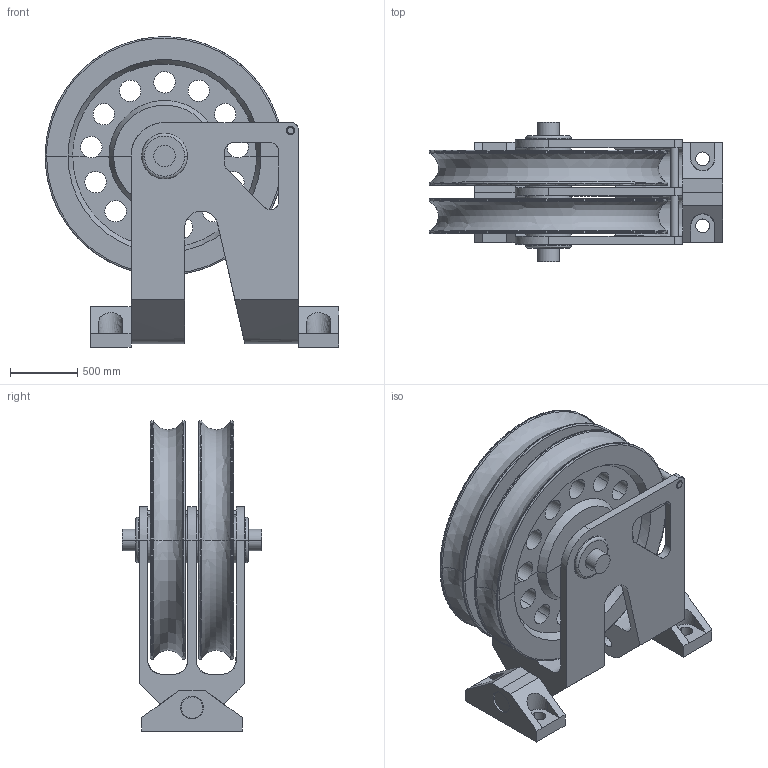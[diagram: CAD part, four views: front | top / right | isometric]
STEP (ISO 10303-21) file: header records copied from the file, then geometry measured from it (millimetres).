
FILE_DESCRIPTION(/* description */ (''),/* implementation_level */ '2;1');
FILE_NAME(/* name */ 'POULIE DOUBLE ARTICULEE D 180',/* time_stamp */ '2005-05-31T08:52:19+02:00',/* author */ (''),/* organization */ (''),/* preprocessor_version */ 'ST-DEVELOPER v8',/* originating_system */ '',/* authorisation */ '');
FILE_SCHEMA (('CONFIG_CONTROL_DESIGN'));
Length unit declared in the file: centimetre
Products named in the file (1): 1
Bounding box: 2190 x 1040 x 2313.83 mm (x, y, z)
Volume: 1432879998.1 mm3; surface area: 33855613 mm2
Topology: 27 solids, 33 shells, 509 faces, 1165 edges, 702 vertices
Faces by surface type: bspline 509
Entity records: 19656 total; most frequent: CARTESIAN_POINT 12872, ORIENTED_EDGE 2308, EDGE_CURVE 1161, VERTEX_POINT 698, EDGE_LOOP 619, B_SPLINE_CURVE_WITH_KNOTS 586, ADVANCED_FACE 509, FACE_OUTER_BOUND 509
